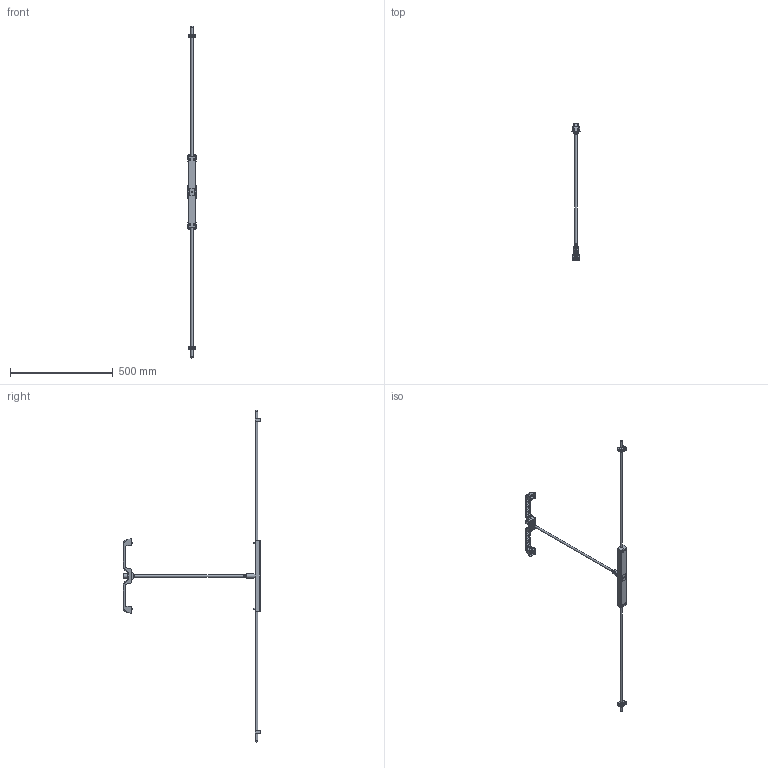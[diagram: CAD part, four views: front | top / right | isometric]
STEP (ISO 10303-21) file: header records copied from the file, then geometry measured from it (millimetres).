
FILE_DESCRIPTION((''),'2;1');
FILE_NAME('D:\01 WORK\DIST\DBHAND - Locking Handle\CBHAND-1001U_B solid assembled.stp','2011-12-05T11:40:01',('sherche'),(''),'Autodesk Inventor 2012','Autodesk Inventor 2012','');
FILE_SCHEMA(('AUTOMOTIVE_DESIGN { 1 0 10303 214 1 1 1 1 }'));
Length unit declared in the file: millimetre
Products named in the file (11): CBHAND assembled_solid; PP02252D-101U_solid; CBHAN2-1000U; STHAN3-0150U; 26036390; PP02252D-118U; PP02252D-018U; 26036590; 26036490; PP02252A-009U; M5x10
Assembly tree (18 placements, depth 3):
  CBHAND assembled_solid
    PP02252D-101U_solid
    CBHAN2-1000U
    STHAN3-0150U  x2
    26036390  x2
    PP02252D-118U
      PP02252D-018U
      26036590
      26036490
    PP02252A-009U  x4
    M5x10  x4
Bounding box: 40 x 670.75 x 1615.27 mm (x, y, z)
Volume: 581711.4 mm3; surface area: 247778.8 mm2
Topology: 17 solids, 17 shells, 2582 faces, 6192 edges, 3752 vertices
Faces by surface type: cylinder 993, plane 906, sphere 304, bspline 207, torus 137, cone 35
Full cylindrical faces by diameter (mm): 3 x2, 4.2 x6, 5 x8, 5.5 x8, 8 x1, 8.5 x2, 10 x3, 10.5 x4, 22 x2, 22.5 x1
Entity records: 70815 total; most frequent: CARTESIAN_POINT 25202, DIRECTION 9577, ORIENTED_EDGE 9280, EDGE_CURVE 4640, AXIS2_PLACEMENT_3D 3540, VERTEX_POINT 2873, VECTOR 2497, LINE 2497
